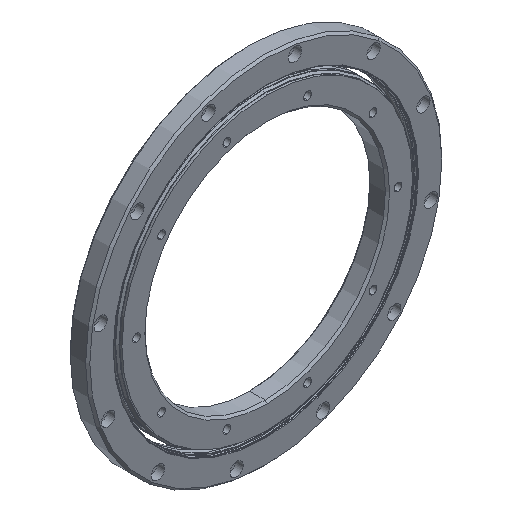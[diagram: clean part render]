
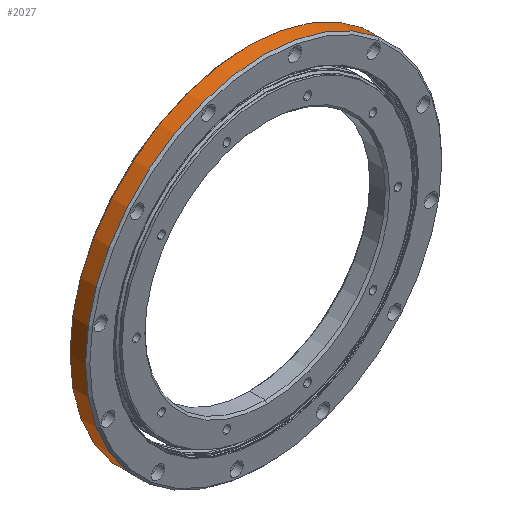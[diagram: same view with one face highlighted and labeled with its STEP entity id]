
A CAD part, isometric view. The second image highlights one B-rep face of the part: STEP entity #2027.
In plain terms, the highlighted cylindrical face has radius 127 mm (diameter 254 mm), a partial arc.
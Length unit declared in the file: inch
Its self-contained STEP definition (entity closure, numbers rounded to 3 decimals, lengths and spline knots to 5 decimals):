
#160 = CARTESIAN_POINT ( 'NONE',  ( 0., 0.09843, -5. ) ) ;
#291 = DIRECTION ( 'NONE',  ( 0., 0., -1. ) ) ;
#635 = CARTESIAN_POINT ( 'NONE',  ( 0., 0., 5. ) ) ;
#774 = AXIS2_PLACEMENT_3D ( 'NONE', #807, #3867, #3968 ) ;
#807 = CARTESIAN_POINT ( 'NONE',  ( 0., 0.5315, 0. ) ) ;
#1168 = CARTESIAN_POINT ( 'NONE',  ( 0., 0., -5. ) ) ;
#1260 = CIRCLE ( 'NONE', #3324, 5. ) ;
#1599 = VECTOR ( 'NONE', #2384, 39.37008 ) ;
#1621 = DIRECTION ( 'NONE',  ( 0., -1., 0. ) ) ;
#1833 = VERTEX_POINT ( 'NONE', #4109 ) ;
#1862 = CARTESIAN_POINT ( 'NONE',  ( 0., 0., 0. ) ) ;
#1985 = EDGE_CURVE ( 'NONE', #1833, #5081, #2547, .T. ) ;
#2027 = ADVANCED_FACE ( 'NONE', ( #3280 ), #2151, .T. ) ;
#2151 = CYLINDRICAL_SURFACE ( 'NONE', #2532, 5. ) ;
#2175 = EDGE_CURVE ( 'NONE', #1833, #3557, #3013, .T. ) ;
#2299 = DIRECTION ( 'NONE',  ( 0., 0., -1. ) ) ;
#2384 = DIRECTION ( 'NONE',  ( 0., -1., 0. ) ) ;
#2532 = AXIS2_PLACEMENT_3D ( 'NONE', #1862, #4849, #2299 ) ;
#2547 = CIRCLE ( 'NONE', #774, 5. ) ;
#2912 = DIRECTION ( 'NONE',  ( 0., 1., 0. ) ) ;
#3013 = LINE ( 'NONE', #635, #1599 ) ;
#3051 = EDGE_CURVE ( 'NONE', #5081, #5097, #3139, .T. ) ;
#3072 = CARTESIAN_POINT ( 'NONE',  ( 0., 0.09843, 5. ) ) ;
#3139 = LINE ( 'NONE', #1168, #5141 ) ;
#3165 = ORIENTED_EDGE ( 'NONE', *, *, #1985, .T. ) ;
#3280 = FACE_OUTER_BOUND ( 'NONE', #3291, .T. ) ;
#3291 = EDGE_LOOP ( 'NONE', ( #4827, #3165, #4088, #4031 ) ) ;
#3310 = EDGE_CURVE ( 'NONE', #5097, #3557, #1260, .T. ) ;
#3324 = AXIS2_PLACEMENT_3D ( 'NONE', #5459, #2912, #291 ) ;
#3557 = VERTEX_POINT ( 'NONE', #3072 ) ;
#3867 = DIRECTION ( 'NONE',  ( 0., -1., 0. ) ) ;
#3968 = DIRECTION ( 'NONE',  ( 0., 0., -1. ) ) ;
#4031 = ORIENTED_EDGE ( 'NONE', *, *, #3310, .T. ) ;
#4041 = CARTESIAN_POINT ( 'NONE',  ( 0., 0.5315, -5. ) ) ;
#4088 = ORIENTED_EDGE ( 'NONE', *, *, #3051, .T. ) ;
#4109 = CARTESIAN_POINT ( 'NONE',  ( 0., 0.5315, 5. ) ) ;
#4827 = ORIENTED_EDGE ( 'NONE', *, *, #2175, .F. ) ;
#4849 = DIRECTION ( 'NONE',  ( 0., -1., 0. ) ) ;
#5081 = VERTEX_POINT ( 'NONE', #4041 ) ;
#5097 = VERTEX_POINT ( 'NONE', #160 ) ;
#5141 = VECTOR ( 'NONE', #1621, 39.37008 ) ;
#5459 = CARTESIAN_POINT ( 'NONE',  ( 0., 0.09843, 0. ) ) ;
